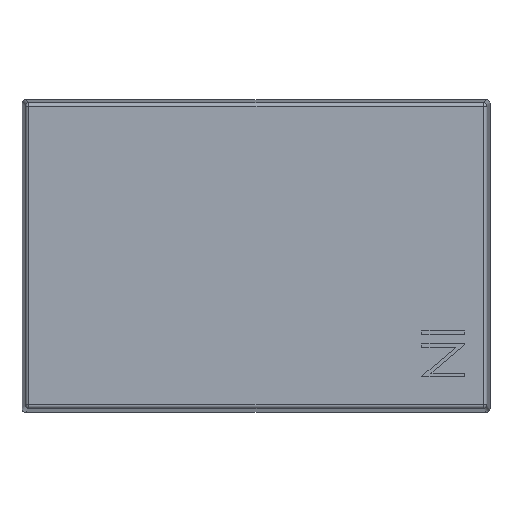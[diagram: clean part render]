
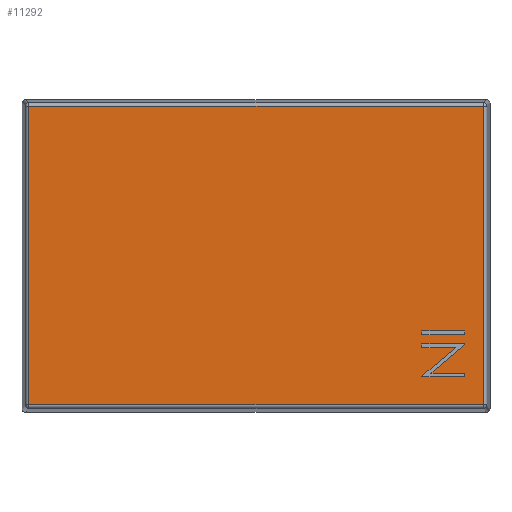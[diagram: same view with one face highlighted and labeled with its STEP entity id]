
A CAD part, top view. The second image highlights one B-rep face of the part: STEP entity #11292.
In plain terms, the highlighted planar face has unit normal (0, 0, 1).
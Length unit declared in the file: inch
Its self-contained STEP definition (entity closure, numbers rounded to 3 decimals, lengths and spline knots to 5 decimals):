
#26 = EDGE_CURVE ( 'NONE', #3453, #14727, #19978, .T. ) ;
#59 = VECTOR ( 'NONE', #4324, 39.37008 ) ;
#146 = LINE ( 'NONE', #365, #9795 ) ;
#164 = VECTOR ( 'NONE', #5733, 39.37008 ) ;
#252 = CARTESIAN_POINT ( 'NONE',  ( 0., 0.24832, 0.60591 ) ) ;
#327 = EDGE_CURVE ( 'NONE', #14727, #15538, #15793, .T. ) ;
#365 = CARTESIAN_POINT ( 'NONE',  ( 1.39311, 0.20592, 0.60591 ) ) ;
#391 = LINE ( 'NONE', #19291, #17894 ) ;
#429 = VECTOR ( 'NONE', #12592, 39.37008 ) ;
#1092 = CARTESIAN_POINT ( 'NONE',  ( 1.4227, 1.00394, 0.60591 ) ) ;
#1751 = ORIENTED_EDGE ( 'NONE', *, *, #21249, .F. ) ;
#1766 = VECTOR ( 'NONE', #24253, 39.37008 ) ;
#1784 = VERTEX_POINT ( 'NONE', #9177 ) ;
#1918 = VECTOR ( 'NONE', #16953, 39.37008 ) ;
#1922 = DIRECTION ( 'NONE',  ( 0., -1., 0. ) ) ;
#2399 = CARTESIAN_POINT ( 'NONE',  ( 1.2849, 0.11229, 0.60591 ) ) ;
#2408 = VECTOR ( 'NONE', #2663, 39.37008 ) ;
#2441 = EDGE_CURVE ( 'NONE', #15538, #4003, #20424, .T. ) ;
#2663 = DIRECTION ( 'NONE',  ( 0., -1., 0. ) ) ;
#2835 = CARTESIAN_POINT ( 'NONE',  ( 1.2849, 1.00394, 0.60591 ) ) ;
#3105 = CARTESIAN_POINT ( 'NONE',  ( 1.48175, 1.00394, 0.60591 ) ) ;
#3125 = CARTESIAN_POINT ( 'NONE',  ( 1.2849, 0.26069, 0.60591 ) ) ;
#3422 = CARTESIAN_POINT ( 'NONE',  ( 0., 0.11229, 0.60591 ) ) ;
#3453 = VERTEX_POINT ( 'NONE', #5309 ) ;
#3587 = VERTEX_POINT ( 'NONE', #2399 ) ;
#3717 = VECTOR ( 'NONE', #8253, 39.37008 ) ;
#3804 = CARTESIAN_POINT ( 'NONE',  ( 0.02218, 0.02218, 0.60591 ) ) ;
#3889 = DIRECTION ( 'NONE',  ( 1., 0., 0. ) ) ;
#4003 = VERTEX_POINT ( 'NONE', #17973 ) ;
#4226 = VECTOR ( 'NONE', #18617, 39.37008 ) ;
#4324 = DIRECTION ( 'NONE',  ( -1., 0., 0. ) ) ;
#4629 = CARTESIAN_POINT ( 'NONE',  ( 1.31425, 0.12466, 0.60591 ) ) ;
#5224 = FACE_BOUND ( 'NONE', #8129, .T. ) ;
#5309 = CARTESIAN_POINT ( 'NONE',  ( 1.48175, 0.02218, 0.60591 ) ) ;
#5540 = VERTEX_POINT ( 'NONE', #3125 ) ;
#5570 = EDGE_CURVE ( 'NONE', #5540, #9130, #16475, .T. ) ;
#5616 = VECTOR ( 'NONE', #17389, 39.37008 ) ;
#5641 = EDGE_CURVE ( 'NONE', #6884, #16209, #10176, .T. ) ;
#5700 = CARTESIAN_POINT ( 'NONE',  ( 0., 0.26069, 0.60591 ) ) ;
#5733 = DIRECTION ( 'NONE',  ( -1., 0., 0. ) ) ;
#6317 = EDGE_CURVE ( 'NONE', #11201, #6586, #12668, .T. ) ;
#6358 = DIRECTION ( 'NONE',  ( 0.766, 0.643, 0. ) ) ;
#6586 = VERTEX_POINT ( 'NONE', #16116 ) ;
#6884 = VERTEX_POINT ( 'NONE', #12909 ) ;
#6892 = ORIENTED_EDGE ( 'NONE', *, *, #14787, .F. ) ;
#7056 = VERTEX_POINT ( 'NONE', #10973 ) ;
#7155 = LINE ( 'NONE', #9037, #21947 ) ;
#7536 = AXIS2_PLACEMENT_3D ( 'NONE', #17708, #17689, #17660 ) ;
#7563 = ORIENTED_EDGE ( 'NONE', *, *, #26, .F. ) ;
#8005 = CARTESIAN_POINT ( 'NONE',  ( 0., 0.21829, 0.60591 ) ) ;
#8104 = ORIENTED_EDGE ( 'NONE', *, *, #10283, .F. ) ;
#8129 = EDGE_LOOP ( 'NONE', ( #20001, #16854, #24131, #8104, #11679, #6892, #23415, #1751, #8567, #20044 ) ) ;
#8253 = DIRECTION ( 'NONE',  ( -1., 0., 0. ) ) ;
#8567 = ORIENTED_EDGE ( 'NONE', *, *, #10820, .F. ) ;
#8658 = VECTOR ( 'NONE', #24479, 39.37008 ) ;
#8829 = LINE ( 'NONE', #8005, #3717 ) ;
#8952 = DIRECTION ( 'NONE',  ( -1., 0., 0. ) ) ;
#9037 = CARTESIAN_POINT ( 'NONE',  ( 0., 0.12466, 0.60591 ) ) ;
#9130 = VERTEX_POINT ( 'NONE', #9458 ) ;
#9177 = CARTESIAN_POINT ( 'NONE',  ( 1.4227, 0.12466, 0.60591 ) ) ;
#9231 = LINE ( 'NONE', #4629, #19490 ) ;
#9458 = CARTESIAN_POINT ( 'NONE',  ( 1.2849, 0.24832, 0.60591 ) ) ;
#9747 = CARTESIAN_POINT ( 'NONE',  ( 1.4227, 0.21829, 0.60591 ) ) ;
#9775 = CARTESIAN_POINT ( 'NONE',  ( 0.02218, 0.98175, 0.60591 ) ) ;
#9795 = VECTOR ( 'NONE', #9875, 39.37008 ) ;
#9796 = LINE ( 'NONE', #3422, #14910 ) ;
#9875 = DIRECTION ( 'NONE',  ( -0.766, -0.643, 0. ) ) ;
#9878 = ORIENTED_EDGE ( 'NONE', *, *, #2441, .F. ) ;
#9912 = ORIENTED_EDGE ( 'NONE', *, *, #5570, .F. ) ;
#10066 = DIRECTION ( 'NONE',  ( 1., 0., 0. ) ) ;
#10176 = LINE ( 'NONE', #1092, #8658 ) ;
#10272 = ORIENTED_EDGE ( 'NONE', *, *, #327, .F. ) ;
#10283 = EDGE_CURVE ( 'NONE', #1784, #20524, #7155, .T. ) ;
#10391 = LINE ( 'NONE', #5700, #164 ) ;
#10820 = EDGE_CURVE ( 'NONE', #6586, #24596, #17966, .T. ) ;
#10897 = ORIENTED_EDGE ( 'NONE', *, *, #18259, .F. ) ;
#10973 = CARTESIAN_POINT ( 'NONE',  ( 1.4227, 0.11229, 0.60591 ) ) ;
#11201 = VERTEX_POINT ( 'NONE', #18664 ) ;
#11292 = ADVANCED_FACE ( 'NONE', ( #5224, #16066, #20012 ), #18070, .F. ) ;
#11679 = ORIENTED_EDGE ( 'NONE', *, *, #15119, .F. ) ;
#12126 = CARTESIAN_POINT ( 'NONE',  ( 0.02218, 1.00394, 0.60591 ) ) ;
#12592 = DIRECTION ( 'NONE',  ( 0., 1., 0. ) ) ;
#12668 = LINE ( 'NONE', #18993, #4226 ) ;
#12909 = CARTESIAN_POINT ( 'NONE',  ( 1.4227, 0.24832, 0.60591 ) ) ;
#12984 = EDGE_LOOP ( 'NONE', ( #9878, #10272, #7563, #21820 ) ) ;
#13039 = VERTEX_POINT ( 'NONE', #23049 ) ;
#13817 = CARTESIAN_POINT ( 'NONE',  ( 1.39311, 0.20592, 0.60591 ) ) ;
#14103 = VERTEX_POINT ( 'NONE', #9747 ) ;
#14421 = EDGE_LOOP ( 'NONE', ( #24363, #22680, #9912, #10897 ) ) ;
#14727 = VERTEX_POINT ( 'NONE', #3804 ) ;
#14787 = EDGE_CURVE ( 'NONE', #3587, #7056, #9796, .T. ) ;
#14901 = CARTESIAN_POINT ( 'NONE',  ( 1.2849, 1.00394, 0.60591 ) ) ;
#14910 = VECTOR ( 'NONE', #3889, 39.37008 ) ;
#15119 = EDGE_CURVE ( 'NONE', #7056, #1784, #19249, .T. ) ;
#15328 = VERTEX_POINT ( 'NONE', #18042 ) ;
#15538 = VERTEX_POINT ( 'NONE', #9775 ) ;
#15668 = EDGE_CURVE ( 'NONE', #20524, #13039, #9231, .T. ) ;
#15710 = CARTESIAN_POINT ( 'NONE',  ( 1.31425, 0.12466, 0.60591 ) ) ;
#15793 = LINE ( 'NONE', #12126, #429 ) ;
#15833 = EDGE_CURVE ( 'NONE', #9130, #6884, #18575, .T. ) ;
#15868 = CARTESIAN_POINT ( 'NONE',  ( 0., 0.02218, 0.60591 ) ) ;
#16066 = FACE_OUTER_BOUND ( 'NONE', #12984, .T. ) ;
#16116 = CARTESIAN_POINT ( 'NONE',  ( 1.2849, 0.20592, 0.60591 ) ) ;
#16209 = VERTEX_POINT ( 'NONE', #20393 ) ;
#16379 = VECTOR ( 'NONE', #1922, 39.37008 ) ;
#16475 = LINE ( 'NONE', #2835, #16379 ) ;
#16699 = EDGE_CURVE ( 'NONE', #14103, #11201, #8829, .T. ) ;
#16854 = ORIENTED_EDGE ( 'NONE', *, *, #21872, .F. ) ;
#16953 = DIRECTION ( 'NONE',  ( 0., -1., 0. ) ) ;
#17313 = LINE ( 'NONE', #14901, #1918 ) ;
#17389 = DIRECTION ( 'NONE',  ( 1., 0., 0. ) ) ;
#17660 = DIRECTION ( 'NONE',  ( -1., 0., 0. ) ) ;
#17689 = DIRECTION ( 'NONE',  ( 0., 0., -1. ) ) ;
#17708 = CARTESIAN_POINT ( 'NONE',  ( 0., 1.00394, 0.60591 ) ) ;
#17894 = VECTOR ( 'NONE', #21220, 39.37008 ) ;
#17966 = LINE ( 'NONE', #23719, #22507 ) ;
#17973 = CARTESIAN_POINT ( 'NONE',  ( 1.48175, 0.98175, 0.60591 ) ) ;
#17991 = VECTOR ( 'NONE', #10066, 39.37008 ) ;
#18042 = CARTESIAN_POINT ( 'NONE',  ( 1.2849, 0.11511, 0.60591 ) ) ;
#18070 = PLANE ( 'NONE',  #7536 ) ;
#18259 = EDGE_CURVE ( 'NONE', #16209, #5540, #10391, .T. ) ;
#18575 = LINE ( 'NONE', #252, #17991 ) ;
#18617 = DIRECTION ( 'NONE',  ( 0., -1., 0. ) ) ;
#18664 = CARTESIAN_POINT ( 'NONE',  ( 1.2849, 0.21829, 0.60591 ) ) ;
#18676 = EDGE_CURVE ( 'NONE', #15328, #3587, #17313, .T. ) ;
#18993 = CARTESIAN_POINT ( 'NONE',  ( 1.2849, 1.00394, 0.60591 ) ) ;
#19249 = LINE ( 'NONE', #24233, #1766 ) ;
#19291 = CARTESIAN_POINT ( 'NONE',  ( 1.4227, 1.00394, 0.60591 ) ) ;
#19334 = CARTESIAN_POINT ( 'NONE',  ( 0., 0.98175, 0.60591 ) ) ;
#19490 = VECTOR ( 'NONE', #6358, 39.37008 ) ;
#19978 = LINE ( 'NONE', #15868, #59 ) ;
#20001 = ORIENTED_EDGE ( 'NONE', *, *, #16699, .F. ) ;
#20012 = FACE_BOUND ( 'NONE', #14421, .T. ) ;
#20044 = ORIENTED_EDGE ( 'NONE', *, *, #6317, .F. ) ;
#20241 = EDGE_CURVE ( 'NONE', #4003, #3453, #22331, .T. ) ;
#20393 = CARTESIAN_POINT ( 'NONE',  ( 1.4227, 0.26069, 0.60591 ) ) ;
#20424 = LINE ( 'NONE', #19334, #5616 ) ;
#20524 = VERTEX_POINT ( 'NONE', #15710 ) ;
#21220 = DIRECTION ( 'NONE',  ( 0., 1., 0. ) ) ;
#21249 = EDGE_CURVE ( 'NONE', #24596, #15328, #146, .T. ) ;
#21820 = ORIENTED_EDGE ( 'NONE', *, *, #20241, .F. ) ;
#21872 = EDGE_CURVE ( 'NONE', #13039, #14103, #391, .T. ) ;
#21947 = VECTOR ( 'NONE', #8952, 39.37008 ) ;
#22331 = LINE ( 'NONE', #3105, #2408 ) ;
#22507 = VECTOR ( 'NONE', #23648, 39.37008 ) ;
#22680 = ORIENTED_EDGE ( 'NONE', *, *, #15833, .F. ) ;
#23049 = CARTESIAN_POINT ( 'NONE',  ( 1.4227, 0.21569, 0.60591 ) ) ;
#23415 = ORIENTED_EDGE ( 'NONE', *, *, #18676, .F. ) ;
#23648 = DIRECTION ( 'NONE',  ( 1., 0., 0. ) ) ;
#23719 = CARTESIAN_POINT ( 'NONE',  ( 0., 0.20592, 0.60591 ) ) ;
#24131 = ORIENTED_EDGE ( 'NONE', *, *, #15668, .F. ) ;
#24233 = CARTESIAN_POINT ( 'NONE',  ( 1.4227, 1.00394, 0.60591 ) ) ;
#24253 = DIRECTION ( 'NONE',  ( 0., 1., 0. ) ) ;
#24363 = ORIENTED_EDGE ( 'NONE', *, *, #5641, .F. ) ;
#24479 = DIRECTION ( 'NONE',  ( 0., 1., 0. ) ) ;
#24596 = VERTEX_POINT ( 'NONE', #13817 ) ;
